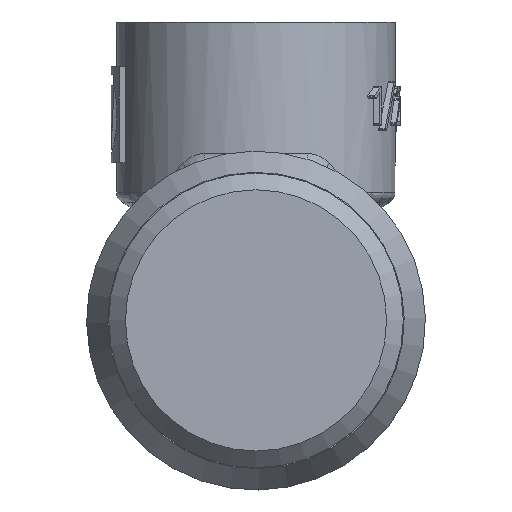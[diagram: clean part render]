
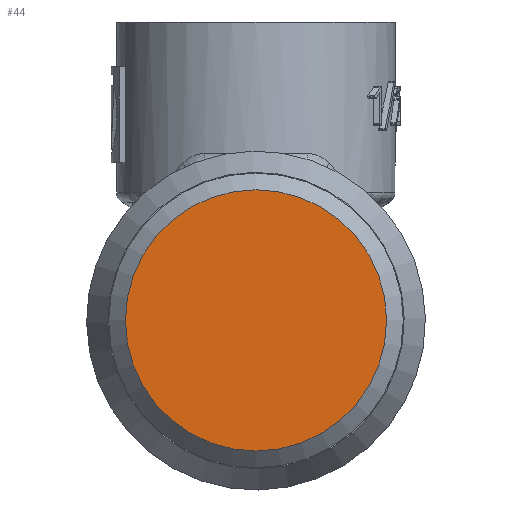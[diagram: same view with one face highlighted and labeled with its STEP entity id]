
A CAD part, top view. The second image highlights one B-rep face of the part: STEP entity #44.
In plain terms, the highlighted planar face has unit normal (0, 0, 1).
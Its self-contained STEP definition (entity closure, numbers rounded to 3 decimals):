
#44=ADVANCED_FACE('',(#307),#309,.T.);
#307=FACE_BOUND('',#308,.T.);
#308=EDGE_LOOP('',(#5084));
#309=PLANE('',#310);
#310=AXIS2_PLACEMENT_3D('',#311,#312,#313);
#311=CARTESIAN_POINT('',(0.,0.,26.3));
#312=DIRECTION('',(0.,0.,1.));
#313=DIRECTION('',(0.,1.,0.));
#5084=ORIENTED_EDGE('',*,*,#6792,.T.);
#6792=EDGE_CURVE('',#7484,#7484,#7485,.F.);
#7484=VERTEX_POINT('',#8629);
#7485=CIRCLE('',#8630,11.721);
#8629=CARTESIAN_POINT('',(-11.721,-10.9,26.3));
#8630=AXIS2_PLACEMENT_3D('',#8631,#8632,#8633);
#8631=CARTESIAN_POINT('',(0.,-10.9,26.3));
#8632=DIRECTION('',(0.,0.,-1.));
#8633=DIRECTION('',(-1.,0.,0.));
